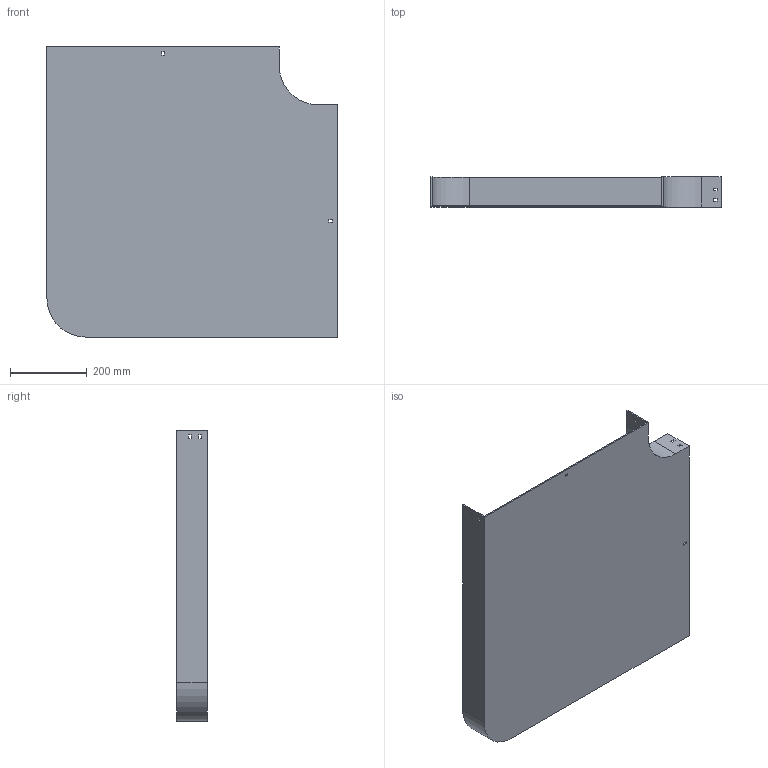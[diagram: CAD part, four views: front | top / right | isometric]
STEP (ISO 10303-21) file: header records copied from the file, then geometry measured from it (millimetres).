
FILE_DESCRIPTION (( 'STEP AP214' ), '1' );
FILE_NAME ('10B1C600.step', '2025-02-21T09:41:51', ( '' ), ( '' ), 'SwSTEP 2.0', 'SolidWorks 2023', '' );
FILE_SCHEMA (( 'AUTOMOTIVE_DESIGN' ));
Length unit declared in the file: millimetre
Products named in the file (1): 10B1C600
Bounding box: 754 x 79 x 754 mm (x, y, z)
Volume: 2363767.1 mm3; surface area: 1363205.6 mm2
Topology: 1 solids, 1 shells, 58 faces, 168 edges, 112 vertices
Faces by surface type: plane 54, cylinder 4
Entity records: 1943 total; most frequent: CARTESIAN_POINT 339, ORIENTED_EDGE 336, DIRECTION 294, EDGE_CURVE 168, LINE 160, VECTOR 160, VERTEX_POINT 112, EDGE_LOOP 78
